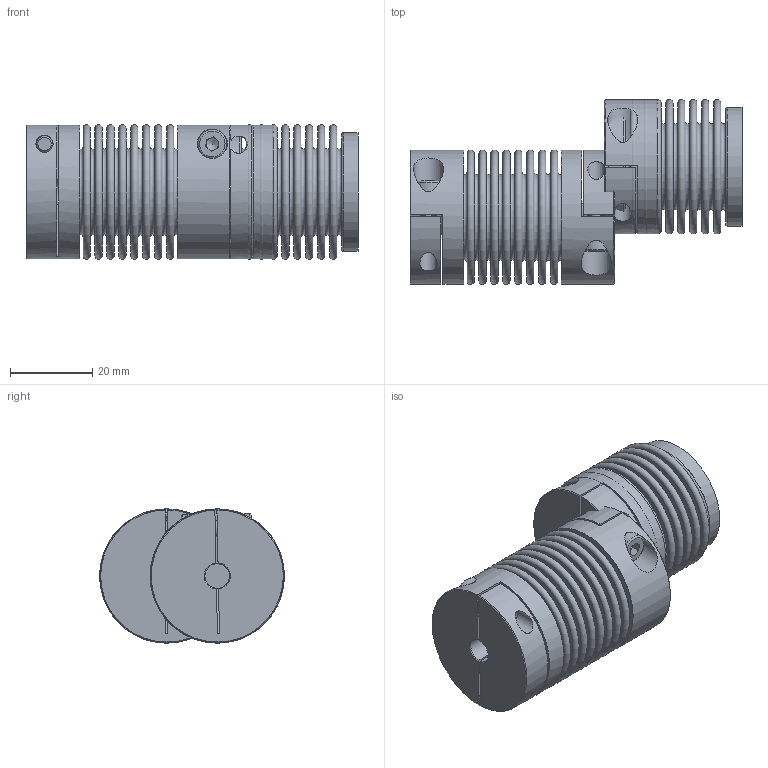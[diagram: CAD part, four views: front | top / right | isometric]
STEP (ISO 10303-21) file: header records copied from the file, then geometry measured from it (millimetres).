
FILE_DESCRIPTION( ( 'Unknown' ), '1' );
FILE_NAME( 'C:/Dokumente und Einstellungen/Sven/Desktop/cad - homepage/KB2/KB2-45-50.stp', 'Unknown', ( 'Unknown' ), ( 'Unknown' ), 'XStep 1.0', 'Unknown', ' ' );
FILE_SCHEMA( ( 'automotive_design' ) );
Length unit declared in the file: millimetre
Products named in the file (4): Assem1; KN45_Standard_0; Socket Head Cap Screw_DIN_DIN 912 M4 x 12 --- 12N_0; BL45_Standard
Bounding box: 80.64 x 44.94 x 32.67 mm (x, y, z)
Volume: 36082 mm3; surface area: 55804.2 mm2
Topology: 8 solids, 8 shells, 289 faces, 560 edges, 362 vertices
Faces by surface type: plane 154, torus 85, cylinder 35, cone 15
Full cylindrical faces by diameter (mm): 4 x6, 4.2 x3, 6 x3, 7 x3, 7.3 x3, 28.2 x4, 28.8 x4, 32.5 x3
Entity records: 3147 total; most frequent: CARTESIAN_POINT 586, DIRECTION 531, ORIENTED_EDGE 334, AXIS2_PLACEMENT_3D 244, EDGE_LOOP 222, FACE_OUTER_BOUND 175, EDGE_CURVE 167, VERTEX_POINT 142
